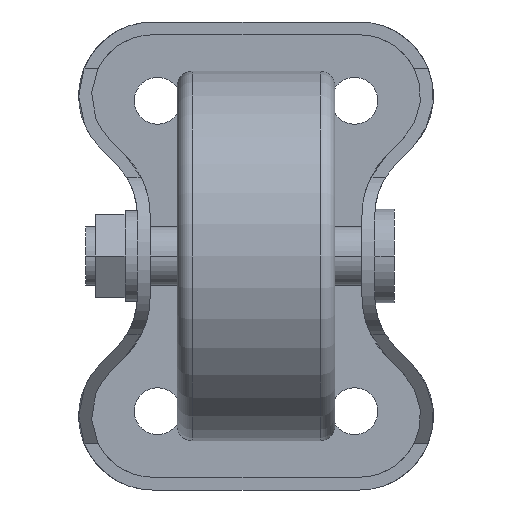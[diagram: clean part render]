
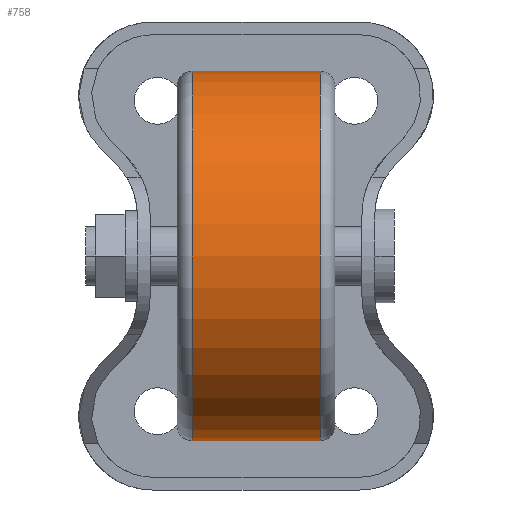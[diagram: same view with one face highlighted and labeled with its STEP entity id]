
A CAD part, front view. The second image highlights one B-rep face of the part: STEP entity #758.
In plain terms, the highlighted cylindrical face has radius 37.5 mm (diameter 75 mm), a partial arc.
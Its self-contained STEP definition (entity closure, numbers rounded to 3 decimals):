
#24 = CARTESIAN_POINT ( 'NONE',  ( 13., 0., 0. ) ) ;
#148 = VERTEX_POINT ( 'NONE', #3185 ) ;
#188 = AXIS2_PLACEMENT_3D ( 'NONE', #3326, #385, #336 ) ;
#235 = CYLINDRICAL_SURFACE ( 'NONE', #1709, 37.5 ) ;
#271 = DIRECTION ( 'NONE',  ( 0., 0., 1. ) ) ;
#298 = EDGE_CURVE ( 'NONE', #2950, #3039, #2477, .T. ) ;
#335 = EDGE_CURVE ( 'NONE', #2950, #148, #2570, .T. ) ;
#336 = DIRECTION ( 'NONE',  ( 0., 0., -1. ) ) ;
#385 = DIRECTION ( 'NONE',  ( 1., 0., 0. ) ) ;
#498 = FACE_OUTER_BOUND ( 'NONE', #1970, .T. ) ;
#532 = ORIENTED_EDGE ( 'NONE', *, *, #1440, .T. ) ;
#536 = EDGE_CURVE ( 'NONE', #1360, #3039, #1326, .T. ) ;
#752 = CARTESIAN_POINT ( 'NONE',  ( 16., 0., 37.5 ) ) ;
#758 = ADVANCED_FACE ( 'NONE', ( #498 ), #235, .T. ) ;
#804 = DIRECTION ( 'NONE',  ( -1., 0., 0. ) ) ;
#903 = CARTESIAN_POINT ( 'NONE',  ( 13., 0., -37.5 ) ) ;
#930 = ORIENTED_EDGE ( 'NONE', *, *, #335, .T. ) ;
#1270 = VECTOR ( 'NONE', #3151, 1000. ) ;
#1326 = CIRCLE ( 'NONE', #188, 37.5 ) ;
#1360 = VERTEX_POINT ( 'NONE', #1759 ) ;
#1440 = EDGE_CURVE ( 'NONE', #148, #1360, #2626, .T. ) ;
#1709 = AXIS2_PLACEMENT_3D ( 'NONE', #2453, #3249, #271 ) ;
#1759 = CARTESIAN_POINT ( 'NONE',  ( -13., 0., 37.5 ) ) ;
#1828 = AXIS2_PLACEMENT_3D ( 'NONE', #24, #804, #1921 ) ;
#1872 = DIRECTION ( 'NONE',  ( -1., 0., 0. ) ) ;
#1897 = ORIENTED_EDGE ( 'NONE', *, *, #298, .F. ) ;
#1921 = DIRECTION ( 'NONE',  ( 0., 0., -1. ) ) ;
#1970 = EDGE_LOOP ( 'NONE', ( #1897, #930, #532, #2795 ) ) ;
#1996 = VECTOR ( 'NONE', #1872, 1000. ) ;
#2453 = CARTESIAN_POINT ( 'NONE',  ( 16., 0., 0. ) ) ;
#2477 = LINE ( 'NONE', #3522, #1996 ) ;
#2570 = CIRCLE ( 'NONE', #1828, 37.5 ) ;
#2606 = CARTESIAN_POINT ( 'NONE',  ( -13., 0., -37.5 ) ) ;
#2626 = LINE ( 'NONE', #752, #1270 ) ;
#2795 = ORIENTED_EDGE ( 'NONE', *, *, #536, .T. ) ;
#2950 = VERTEX_POINT ( 'NONE', #903 ) ;
#3039 = VERTEX_POINT ( 'NONE', #2606 ) ;
#3151 = DIRECTION ( 'NONE',  ( -1., 0., 0. ) ) ;
#3185 = CARTESIAN_POINT ( 'NONE',  ( 13., 0., 37.5 ) ) ;
#3249 = DIRECTION ( 'NONE',  ( -1., 0., 0. ) ) ;
#3326 = CARTESIAN_POINT ( 'NONE',  ( -13., 0., 0. ) ) ;
#3522 = CARTESIAN_POINT ( 'NONE',  ( 16., 0., -37.5 ) ) ;
